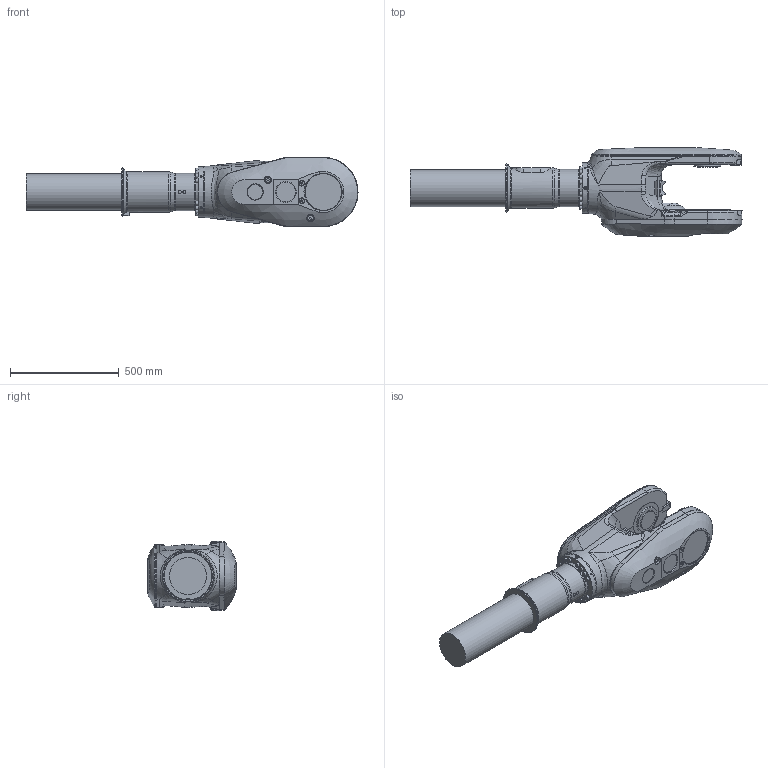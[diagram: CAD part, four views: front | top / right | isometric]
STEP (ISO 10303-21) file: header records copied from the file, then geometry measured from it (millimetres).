
FILE_DESCRIPTION (( 'STEP AP214' ), '1' );
FILE_NAME ('IRB6740-LID_270kg-280_OC_00_LINK04_CAD.step', '2026-05-07T13:15:02', ( '' ), ( '' ), 'SwSTEP 2.0', 'SolidWorks 2024', '' );
FILE_SCHEMA (( 'AUTOMOTIVE_DESIGN' ));
Length unit declared in the file: millimetre
Products named in the file (1): IRB6740-LID_270kg-280_OC_00_LINK04_CAD
Bounding box: 1524.5 x 408.5 x 318 mm (x, y, z)
Volume: 65811857.9 mm3; surface area: 1548825.7 mm2
Topology: 1 solids, 4 shells, 669 faces, 1637 edges, 1034 vertices
Faces by surface type: plane 338, cylinder 119, bspline 106, cone 82, torus 22, sphere 2
Full cylindrical faces by diameter (mm): 0.1 x1, 6.8 x6, 8.3 x2, 10.5 x1, 12 x3, 14 x2, 17.9 x2, 18 x2, 18.27 x16, 20.8 x2, 24 x1, 27 x2, 28.01 x1, 28.5 x2, 62 x1, 92 x1, 115 x1, 124 x1, 163 x1, 165 x1, 170 x2, 172 x2, 185 x1, 186.4 x1, 188.4 x1, 191.4 x1, 192.4 x1, 195 x1, 234 x1
Entity records: 35405 total; most frequent: CARTESIAN_POINT 14396, ORIENTED_EDGE 2940, DIRECTION 2397, EDGE_CURVE 1470, VERTEX_POINT 995, AXIS2_PLACEMENT_3D 877, EDGE_LOOP 857, FACE_OUTER_BOUND 742
